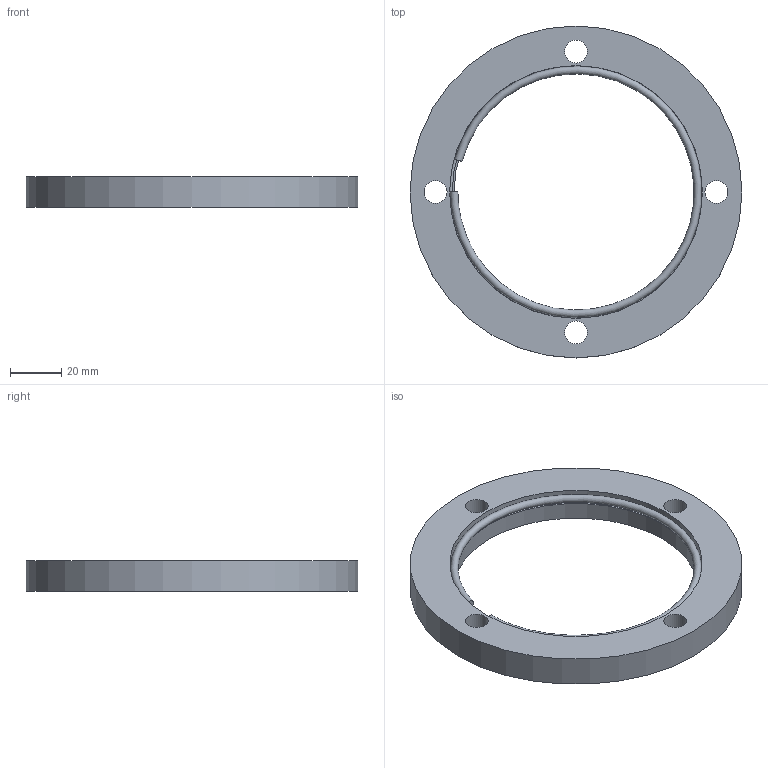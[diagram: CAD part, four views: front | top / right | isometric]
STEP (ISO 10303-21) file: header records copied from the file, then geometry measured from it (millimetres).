
FILE_DESCRIPTION( ( 'Unknown' ), '1' );
FILE_NAME( 'X:/Daten ( aktueller Bestand )/Projekte und Zeichnungen/Solid Edge/10 ISO-K Bauteile/ISO-K-Überwurfflansch mit Sprengring/6581.stp', 'Unknown', ( 'Unknown' ), ( 'Unknown' ), 'XStep 1.0', 'Unknown', ' ' );
FILE_SCHEMA( ( 'automotive_design' ) );
Length unit declared in the file: millimetre
Products named in the file (2): 1; 2
Bounding box: 130 x 130 x 12 mm (x, y, z)
Volume: 69694.3 mm3; surface area: 24214.8 mm2
Topology: 2 solids, 2 shells, 14 faces, 31 edges, 22 vertices
Faces by surface type: cylinder 7, plane 5, torus 2
Full cylindrical faces by diameter (mm): 9 x4, 95.5 x1, 99 x1, 130 x1
Entity records: 477 total; most frequent: DIRECTION 66, CARTESIAN_POINT 50, EDGE_LOOP 34, ORIENTED_EDGE 34, AXIS2_PLACEMENT_3D 33, FACE_OUTER_BOUND 23, EDGE_CURVE 17, VERTEX_POINT 17
